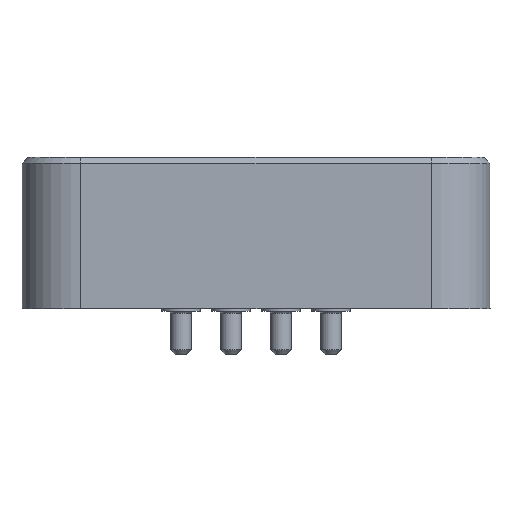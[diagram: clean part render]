
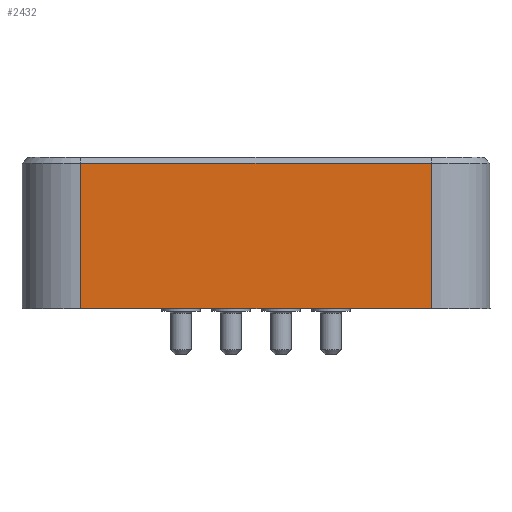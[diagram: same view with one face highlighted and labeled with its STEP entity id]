
A CAD part, front view. The second image highlights one B-rep face of the part: STEP entity #2432.
In plain terms, the highlighted planar face has unit normal (0, -1, 0).
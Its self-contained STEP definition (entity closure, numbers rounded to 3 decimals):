
#216=DIRECTION('',(0.,0.,-1.));
#217=VECTOR('',#216,4.95);
#218=CARTESIAN_POINT('',(-5.95,-2.2,
-0.2));
#219=LINE('',#218,#217);
#220=DIRECTION('',(1.,0.,0.));
#221=VECTOR('',#220,11.9);
#222=CARTESIAN_POINT('',(-5.95,-2.2,
-0.2));
#223=LINE('',#222,#221);
#224=DIRECTION('',(-1.,0.,0.));
#225=VECTOR('',#224,11.9);
#226=CARTESIAN_POINT('',(5.95,-2.2,-5.15));
#227=LINE('',#226,#225);
#228=DIRECTION('',(0.,0.,1.));
#229=VECTOR('',#228,4.95);
#230=CARTESIAN_POINT('',(5.95,-2.2,-5.15));
#231=LINE('',#230,#229);
#1690=CARTESIAN_POINT('',(-5.95,-2.2,
-0.2));
#1691=VERTEX_POINT('',#1690);
#1692=CARTESIAN_POINT('',(5.95,-2.2,
-0.2));
#1693=VERTEX_POINT('',#1692);
#1720=CARTESIAN_POINT('',(-5.95,-2.2,-5.15));
#1721=VERTEX_POINT('',#1720);
#1722=CARTESIAN_POINT('',(5.95,-2.2,-5.15));
#1723=VERTEX_POINT('',#1722);
#2420=CARTESIAN_POINT('',(-5.95,-2.2,0.));
#2421=DIRECTION('',(0.,-1.,0.));
#2422=DIRECTION('',(1.,0.,0.));
#2423=AXIS2_PLACEMENT_3D('',#2420,#2421,#2422);
#2424=PLANE('',#2423);
#2425=ORIENTED_EDGE('',*,*,#2221,.T.);
#2427=ORIENTED_EDGE('',*,*,#2426,.F.);
#2428=ORIENTED_EDGE('',*,*,#2333,.T.);
#2429=ORIENTED_EDGE('',*,*,#2413,.F.);
#2430=EDGE_LOOP('',(#2425,#2427,#2428,#2429));
#2431=FACE_OUTER_BOUND('',#2430,.F.);
#2432=ADVANCED_FACE('',(#2431),#2424,.T.);
#2221=EDGE_CURVE('',#1691,#1693,#223,.T.);
#2333=EDGE_CURVE('',#1723,#1721,#227,.T.);
#2413=EDGE_CURVE('',#1691,#1721,#219,.T.);
#2426=EDGE_CURVE('',#1723,#1693,#231,.T.);
